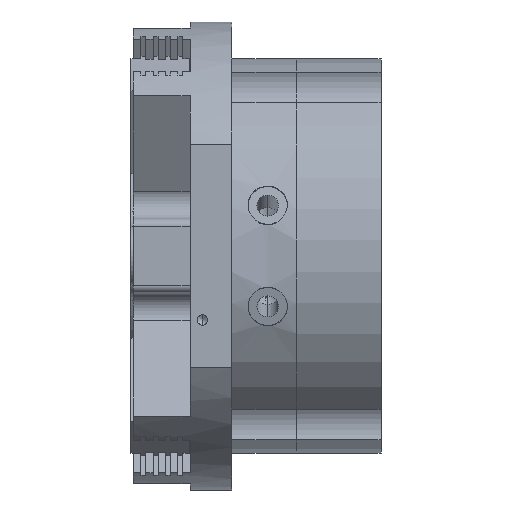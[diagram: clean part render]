
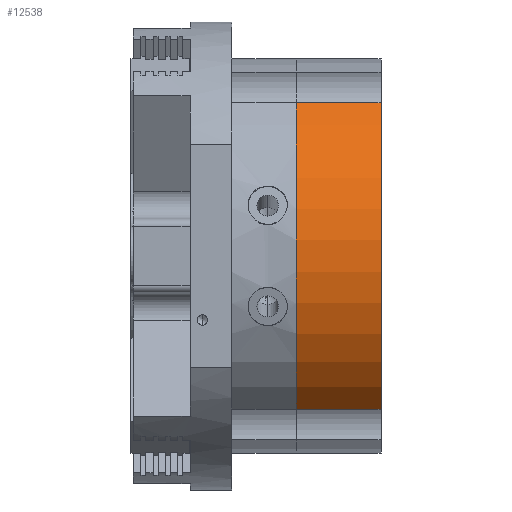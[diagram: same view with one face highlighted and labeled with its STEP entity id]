
A CAD part, left-side view. The second image highlights one B-rep face of the part: STEP entity #12538.
In plain terms, the highlighted cylindrical face has radius 80 mm (diameter 160 mm), a partial arc.
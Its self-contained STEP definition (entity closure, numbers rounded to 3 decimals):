
#844 = DIRECTION ( 'NONE',  ( 0., 1., 0. ) ) ;
#944 = DIRECTION ( 'NONE',  ( 0., 0., -1. ) ) ;
#1098 = AXIS2_PLACEMENT_3D ( 'NONE', #14554, #5276, #5228 ) ;
#1293 = VECTOR ( 'NONE', #8080, 1000. ) ;
#1294 = DIRECTION ( 'NONE',  ( 0., -1., 0. ) ) ;
#2077 = VERTEX_POINT ( 'NONE', #12693 ) ;
#2266 = CIRCLE ( 'NONE', #12436, 80. ) ;
#3093 = ORIENTED_EDGE ( 'NONE', *, *, #12066, .T. ) ;
#3098 = CYLINDRICAL_SURFACE ( 'NONE', #9168, 80. ) ;
#4486 = DIRECTION ( 'NONE',  ( 0., -1., 0. ) ) ;
#4714 = CARTESIAN_POINT ( 'NONE',  ( 0., 0., 0. ) ) ;
#4766 = CARTESIAN_POINT ( 'NONE',  ( 0., 34.5, 0. ) ) ;
#5228 = DIRECTION ( 'NONE',  ( 0., 0., -1. ) ) ;
#5276 = DIRECTION ( 'NONE',  ( 0., -1., 0. ) ) ;
#6120 = ORIENTED_EDGE ( 'NONE', *, *, #11938, .T. ) ;
#6367 = CARTESIAN_POINT ( 'NONE',  ( -62.219, 0., 50.287 ) ) ;
#7510 = EDGE_CURVE ( 'NONE', #12699, #12270, #2266, .T. ) ;
#7764 = CARTESIAN_POINT ( 'NONE',  ( -62.219, 34.5, 50.287 ) ) ;
#8080 = DIRECTION ( 'NONE',  ( 0., 1., 0. ) ) ;
#8282 = CARTESIAN_POINT ( 'NONE',  ( 62.219, -21.5, 50.287 ) ) ;
#8732 = ORIENTED_EDGE ( 'NONE', *, *, #9534, .T. ) ;
#9137 = CARTESIAN_POINT ( 'NONE',  ( -62.219, 34.5, 50.287 ) ) ;
#9168 = AXIS2_PLACEMENT_3D ( 'NONE', #4766, #1294, #10625 ) ;
#9465 = LINE ( 'NONE', #9137, #11680 ) ;
#9534 = EDGE_CURVE ( 'NONE', #12158, #12699, #9465, .T. ) ;
#10156 = CARTESIAN_POINT ( 'NONE',  ( 62.219, 0., 50.287 ) ) ;
#10400 = FACE_OUTER_BOUND ( 'NONE', #11124, .T. ) ;
#10625 = DIRECTION ( 'NONE',  ( 0., 0., -1. ) ) ;
#11124 = EDGE_LOOP ( 'NONE', ( #13863, #6120, #3093, #8732 ) ) ;
#11680 = VECTOR ( 'NONE', #4486, 1000. ) ;
#11938 = EDGE_CURVE ( 'NONE', #12270, #2077, #14602, .T. ) ;
#12066 = EDGE_CURVE ( 'NONE', #2077, #12158, #14058, .T. ) ;
#12158 = VERTEX_POINT ( 'NONE', #7764 ) ;
#12270 = VERTEX_POINT ( 'NONE', #10156 ) ;
#12436 = AXIS2_PLACEMENT_3D ( 'NONE', #4714, #844, #944 ) ;
#12538 = ADVANCED_FACE ( 'NONE', ( #10400 ), #3098, .T. ) ;
#12693 = CARTESIAN_POINT ( 'NONE',  ( 62.219, 34.5, 50.287 ) ) ;
#12699 = VERTEX_POINT ( 'NONE', #6367 ) ;
#13863 = ORIENTED_EDGE ( 'NONE', *, *, #7510, .T. ) ;
#14058 = CIRCLE ( 'NONE', #1098, 80. ) ;
#14554 = CARTESIAN_POINT ( 'NONE',  ( 0., 34.5, 0. ) ) ;
#14602 = LINE ( 'NONE', #8282, #1293 ) ;
